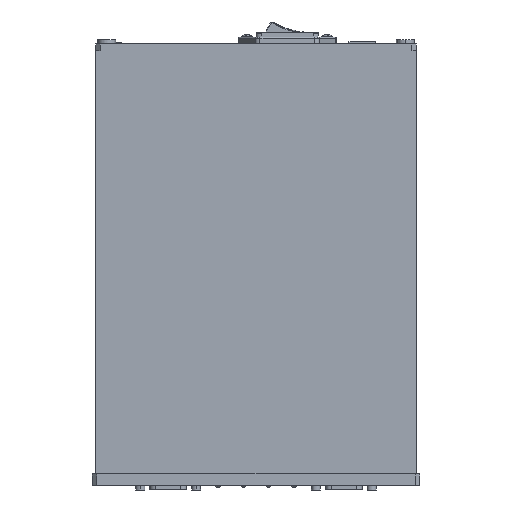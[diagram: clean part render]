
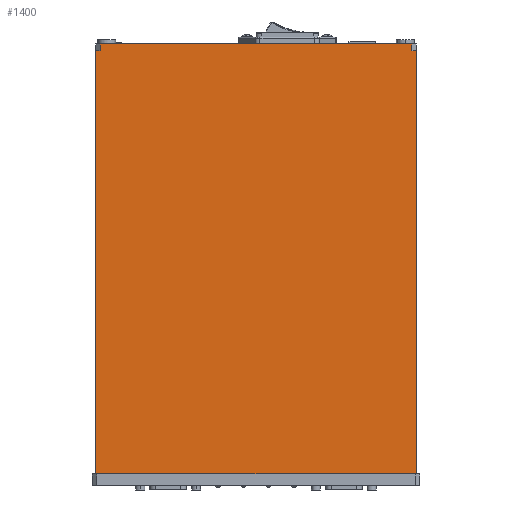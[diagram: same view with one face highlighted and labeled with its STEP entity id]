
A CAD part, front view. The second image highlights one B-rep face of the part: STEP entity #1400.
In plain terms, the highlighted planar face has unit normal (0, -1, 0).
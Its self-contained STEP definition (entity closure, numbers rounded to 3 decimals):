
#1400=ADVANCED_FACE('',(#3847),#3848,.T.);
#3847=FACE_OUTER_BOUND('',#7469,.T.);
#3848=PLANE('',#7470);
#7469=EDGE_LOOP('',(#16683,#16684,#16685,#16686,#16687,#16688,#16689,#16690));
#7470=AXIS2_PLACEMENT_3D('',#16691,#16692,#16693);
#16683=ORIENTED_EDGE('',*,*,#25573,.T.);
#16684=ORIENTED_EDGE('',*,*,#25574,.T.);
#16685=ORIENTED_EDGE('',*,*,#25575,.T.);
#16686=ORIENTED_EDGE('',*,*,#25576,.T.);
#16687=ORIENTED_EDGE('',*,*,#25577,.T.);
#16688=ORIENTED_EDGE('',*,*,#25578,.T.);
#16689=ORIENTED_EDGE('',*,*,#25579,.T.);
#16690=ORIENTED_EDGE('',*,*,#25580,.T.);
#16691=CARTESIAN_POINT('',(72.0,107.0,-170.0));
#16692=DIRECTION('',(0.0,-1.0,0.0));
#16693=DIRECTION('',(0.0,0.0,-1.0));
#25573=EDGE_CURVE('',#30012,#30013,#30014,.T.);
#25574=EDGE_CURVE('',#30013,#30015,#30016,.T.);
#25575=EDGE_CURVE('',#30015,#30017,#30018,.T.);
#25576=EDGE_CURVE('',#30017,#30019,#30020,.T.);
#25577=EDGE_CURVE('',#30019,#30021,#30022,.T.);
#25578=EDGE_CURVE('',#30021,#30023,#30024,.T.);
#25579=EDGE_CURVE('',#30023,#30025,#30026,.T.);
#25580=EDGE_CURVE('',#30025,#30012,#30027,.T.);
#30012=VERTEX_POINT('',#36564);
#30013=VERTEX_POINT('',#36565);
#30014=LINE('',#36566,#36567);
#30015=VERTEX_POINT('',#36568);
#30016=LINE('',#36569,#36570);
#30017=VERTEX_POINT('',#36571);
#30018=LINE('',#36572,#36573);
#30019=VERTEX_POINT('',#36574);
#30020=LINE('',#36575,#36576);
#30021=VERTEX_POINT('',#36577);
#30022=LINE('',#36578,#36579);
#30023=VERTEX_POINT('',#36580);
#30024=LINE('',#36581,#36582);
#30025=VERTEX_POINT('',#36583);
#30026=LINE('',#36584,#36585);
#30027=LINE('',#36586,#36587);
#36564=CARTESIAN_POINT('',(72.0,107.0,-168.));
#36565=CARTESIAN_POINT('',(72.0,107.0,22.0));
#36566=CARTESIAN_POINT('',(72.,107.0,-170.0));
#36567=VECTOR('',#47593,190.);
#36568=CARTESIAN_POINT('',(70.,107.,22.0));
#36569=CARTESIAN_POINT('',(72.0,107.0,22.0));
#36570=VECTOR('',#47594,2.);
#36571=CARTESIAN_POINT('',(70.,107.,25.));
#36572=CARTESIAN_POINT('',(70.,107.0,-170.0));
#36573=VECTOR('',#47595,3.);
#36574=CARTESIAN_POINT('',(-70.,107.,25.));
#36575=CARTESIAN_POINT('',(72.0,107.0,25.));
#36576=VECTOR('',#47596,140.0);
#36577=CARTESIAN_POINT('',(-70.,107.0,22.0));
#36578=CARTESIAN_POINT('',(-70.,107.0,-170.0));
#36579=VECTOR('',#47597,3.);
#36580=CARTESIAN_POINT('',(-72.,107.0,22.0));
#36581=CARTESIAN_POINT('',(72.0,107.0,22.0));
#36582=VECTOR('',#47598,2.);
#36583=CARTESIAN_POINT('',(-72.,107.0,-168.));
#36584=CARTESIAN_POINT('',(-72.,107.0,-170.0));
#36585=VECTOR('',#47599,190.);
#36586=CARTESIAN_POINT('',(72.0,107.0,-168.));
#36587=VECTOR('',#47600,144.0);
#47593=DIRECTION('',(0.0,0.0,1.0));
#47594=DIRECTION('',(-1.0,0.0,0.0));
#47595=DIRECTION('',(0.0,0.0,1.0));
#47596=DIRECTION('',(-1.0,0.0,0.0));
#47597=DIRECTION('',(0.0,0.0,-1.0));
#47598=DIRECTION('',(-1.0,0.0,0.0));
#47599=DIRECTION('',(0.0,0.0,-1.0));
#47600=DIRECTION('',(1.0,0.0,0.0));
